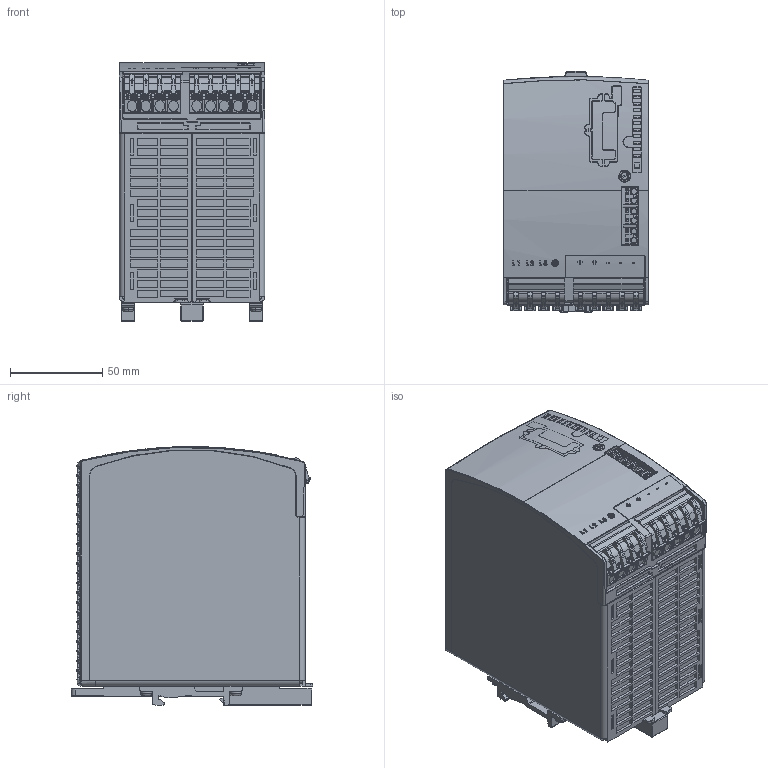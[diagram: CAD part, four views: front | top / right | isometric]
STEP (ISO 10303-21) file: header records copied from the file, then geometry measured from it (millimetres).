
FILE_DESCRIPTION (( 'STEP AP214' ), '1' );
FILE_NAME ('3D_TP960.481 .STP', '2026-10-08T10:17:33', ( '' ), ( '' ), 'SwSTEP 2.0', 'SolidWorks 2024', '' );
FILE_SCHEMA (( 'AUTOMOTIVE_DESIGN' ));
Length unit declared in the file: millimetre
Products named in the file (12): 3D_TP960.481 ; 1018315_000_BRep_Config; 1047207_000; 1047178_000; 1047181_000_EW-484.881; 1047177_000_EW-484.992.00; 1041861_000; 1047195_000; 1018355_000_Feat_Config; 1025340_000_Feat_Config; 1047194_000_Standard; 1025664_000
Assembly tree (14 placements, depth 2):
  3D_TP960.481 
    1047177_000_EW-484.992.00
    1047181_000_EW-484.881
    1018355_000_Feat_Config
    1041861_000  x2
    1047178_000
    1025340_000_Feat_Config  x3
    1047195_000
    1047194_000_Standard
    1025664_000
    1018315_000_BRep_Config
    1047207_000
Bounding box: 79 x 130.9 x 140.5 mm (x, y, z)
Volume: 1200659.3 mm3; surface area: 232925 mm2
Topology: 14 solids, 14 shells, 7764 faces, 20541 edges, 12519 vertices
Faces by surface type: plane 2573, bspline 2564, cylinder 1995, sphere 385, torus 220, cone 27
Entity records: 271523 total; most frequent: CARTESIAN_POINT 107812, ORIENTED_EDGE 38984, DIRECTION 26508, EDGE_CURVE 19492, VERTEX_POINT 11911, AXIS2_PLACEMENT_3D 9667, EDGE_LOOP 7729, FACE_OUTER_BOUND 7439
